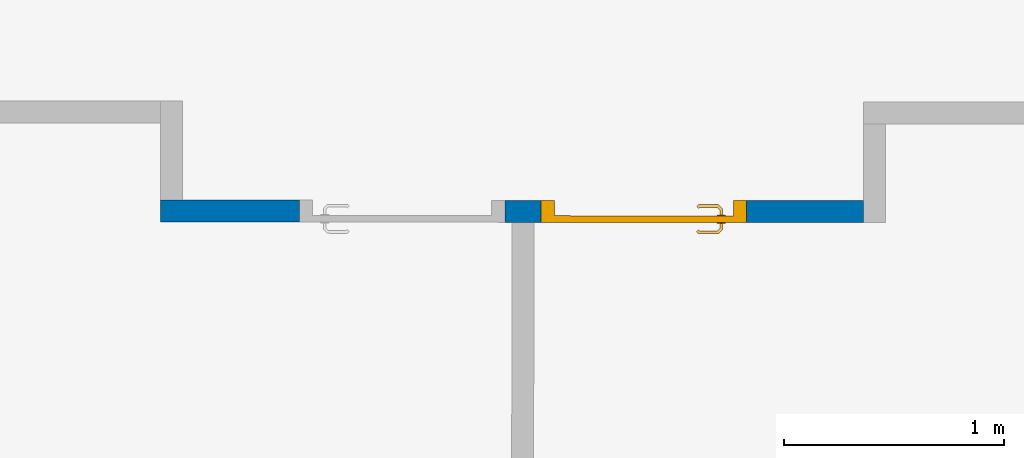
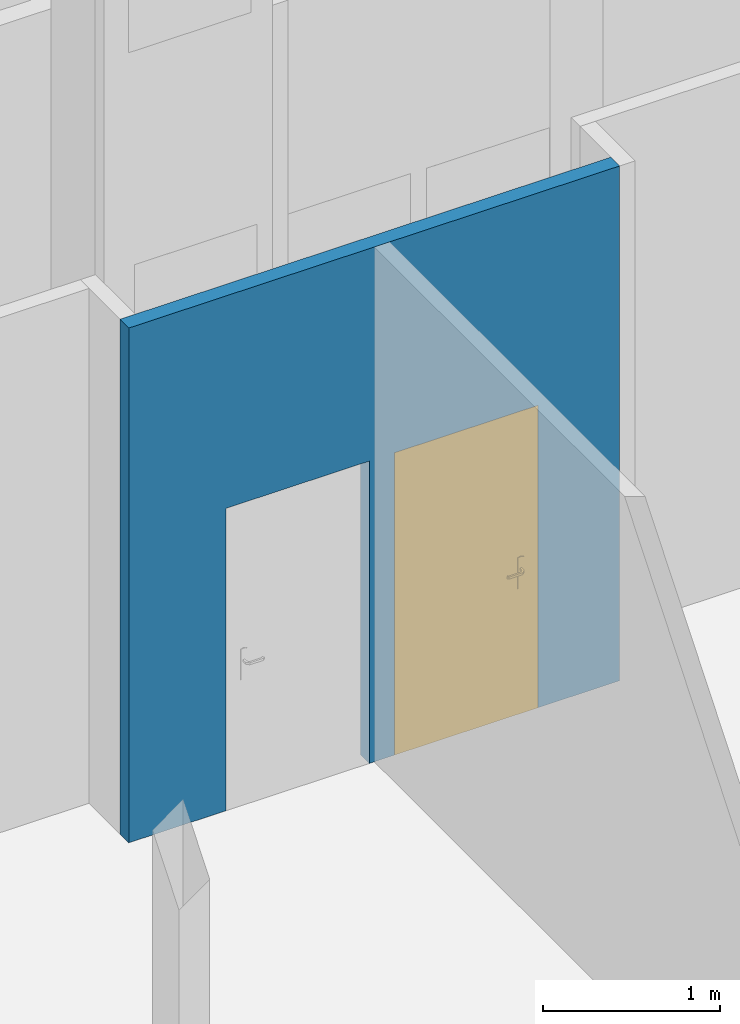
# One storey, part 45 of 101: 1 door, 1 wall, 2 openings.
"""IFC2X3 building model written with IfcOpenShell, lengths in metres."""

from ifc_helpers import new_model, entity, si_unit, converted_unit, derived_unit, direction, frame, frame_2d, origin, place, context, subcontext, project, spatial, rectangle, extrude, faceted_brep, source, transform, mapped, material, material_list, layer, layer_set, layer_usage, type_object, type_shapes, element, fill, save


model = new_model("IFC2X3")

# Units and contexts
model_context = context("Model", 3, precision=1e-05, world=origin(), true_north=direction((6.123233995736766e-17, 1.0)))
body_context = subcontext(model_context, "Body", "Model", "MODEL_VIEW")
ifc_project = project(units=[si_unit("LENGTHUNIT", "METRE"), si_unit("AREAUNIT", "SQUARE_METRE"), converted_unit("PLANEANGLEUNIT", "DEGREE", entity("IfcPlaneAngleMeasure", 0.017453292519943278), si_unit("PLANEANGLEUNIT", "RADIAN"), dimensions=[0, 0, 0, 0, 0, 0, 0]), derived_unit("THERMALTRANSMITTANCEUNIT", [(si_unit("MASSUNIT", "GRAM", prefix="KILO"), 1), (si_unit("THERMODYNAMICTEMPERATUREUNIT", "KELVIN"), -1), (si_unit("TIMEUNIT", "SECOND"), -3)])], contexts=[model_context])

# Site, building, storey
site_placement = place(None, frame((1253.6752467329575, 2072.143113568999, 91.49999999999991), z_axis=(0.0, 0.0, 1.0), x_axis=(0.7237211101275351, 0.6900925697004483, 0.0)))
site = spatial("IfcSite", under=ifc_project, at=site_placement, Name="Surface", CompositionType="ELEMENT")
building_placement = place(site_placement, origin())
building = spatial("IfcBuilding", under=site, at=building_placement, CompositionType="ELEMENT")
storey_placement = place(building_placement, origin())
storey = spatial("IfcBuildingStorey", under=building, at=storey_placement, Name="0- Rdc", CompositionType="ELEMENT", Elevation=-5.764692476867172e-13)

# Wall, openings, door
ifc_material_1 = material(Name="OMD_Béton blanc")
ifc_layer = layer(ifc_material_1, 0.1)
ifc_layer_set = layer_set([ifc_layer], Name="Mur de base:MUR 10")
ifc_layer_usage = layer_usage(ifc_layer_set, "AXIS2", "NEGATIVE", 0.05)
wall_type = type_object("IfcWallType", Name="Mur de base:MUR 10", PredefinedType="STANDARD", material=ifc_layer_set)
wall_placement = place(storey_placement, frame((155.02169583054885, 2.2505814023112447, 0.0), z_axis=(0.0, 0.0, 1.0), x_axis=(0.722870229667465, -0.6909838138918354, 0.0)))
wall = element("IfcWallStandardCase", 1, at=wall_placement, inside=storey, type_object=wall_type, material=ifc_layer_usage, Name="Mur de base:MUR 10", ObjectType="Mur de base:MUR 10", context=body_context, shape_type="SweptSolid", body=[
    extrude(rectangle(XDim=3.2000000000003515, YDim=0.09999999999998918, at=frame_2d((1.600000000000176, 2.588207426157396e-15), x_axis=(-1.0, 0.0))), origin(), (0.0, 0.0, 1.0), 3.5499999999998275),
])
opening_1_placement = place(wall_placement, frame((2.667499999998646, 0.05000000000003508, 0.0)))
opening_1 = element("IfcOpeningElement", 2, at=opening_1_placement, cuts=wall, Name="OMD_Porte 1V tunnel:80x204:1", ObjectType="Opening", context=body_context, shape_type="SweptSolid", body=[
    extrude(rectangle(XDim=2.0850000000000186, YDim=0.9349999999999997, at=frame_2d((1.0425000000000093, 0.46749999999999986), x_axis=(1.0, 0.0))), frame((0.0, 0.0, 0.0), z_axis=(0.0, -1.0, 0.0), x_axis=(0.0, 0.0, 1.0)), (0.0, 0.0, 1.0), 0.09999999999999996),
])
opening_2_placement = place(wall_placement, frame((1.5674999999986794, 0.05000000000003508, 0.0)))
element("IfcOpeningElement", 3, at=opening_2_placement, cuts=wall, Name="OMD_Porte 1V tunnel:80x204:1", ObjectType="Opening", context=body_context, shape_type="SweptSolid", body=[
    extrude(rectangle(XDim=2.0850000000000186, YDim=0.9349999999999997, at=frame_2d((1.0425000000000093, 0.46749999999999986), x_axis=(1.0, 0.0))), frame((0.0, 0.0, 0.0), z_axis=(0.0, -1.0, 0.0), x_axis=(0.0, 0.0, 1.0)), (0.0, 0.0, 1.0), 0.09999999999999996),
])
ifc_material_2 = material(Name="Porte - Poignée")
ifc_material_3 = material(Name="OMD_Peinture mur")
ifc_material_4 = material(Name="OMD_Bois")
ifc_material_list = material_list([ifc_material_2, ifc_material_3, ifc_material_4])
door_style = type_object("IfcDoorStyle", Name="OMD_Porte 1V tunnel:80x204", ConstructionType="NOTDEFINED", OperationType="NOTDEFINED", ParameterTakesPrecedence=False, Sizeable=False, material=ifc_material_list)
shared_shape = source(origin(), body_context, "Body", "Brep", [
    faceted_brep([(0.8220252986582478, 0.03500000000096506, 1.0077804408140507), (0.8179747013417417, 0.03500000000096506, 1.007780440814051), (0.8139999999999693, 0.03500000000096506, 1.00699999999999), (0.8139999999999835, 0.03500000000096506, 0.9930000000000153), (0.8179747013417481, 0.03500000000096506, 0.9922195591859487), (0.8220252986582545, 0.03500000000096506, 0.9922195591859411), (0.8260000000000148, 0.03500000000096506, 0.9929999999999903), (0.826000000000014, 0.03500000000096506, 1.006999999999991), (0.8139999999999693, 0.05748520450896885, 1.00699999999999), (0.8139999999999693, 0.05748520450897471, 0.9930000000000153), (0.8179747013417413, 0.059131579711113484, 1.007780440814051), (0.8220252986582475, 0.060809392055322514, 1.0077804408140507), (0.8058389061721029, 0.07699578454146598, 1.0077804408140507), (0.8041610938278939, 0.07294518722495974, 1.007780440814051), (0.7207931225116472, 0.07294518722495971, 1.0077804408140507), (0.7191153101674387, 0.07699578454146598, 1.0077804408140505), (0.7114510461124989, 0.06933152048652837, 1.0077804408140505), (0.714315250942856, 0.0664673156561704, 1.0077804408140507), (0.8260000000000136, 0.062455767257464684, 1.006999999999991), (0.8260000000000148, 0.062455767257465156, 0.9929999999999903), (0.8220252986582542, 0.06080939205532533, 0.9922195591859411), (0.8179747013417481, 0.05913157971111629, 0.9922195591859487), (0.8041610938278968, 0.07294518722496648, 0.9922195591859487), (0.8058389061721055, 0.07699578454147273, 0.9922195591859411), (0.7191153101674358, 0.07699578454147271, 0.9922195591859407), (0.7207931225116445, 0.07294518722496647, 0.9922195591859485), (0.7143152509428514, 0.06646731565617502, 0.9922195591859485), (0.7114510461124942, 0.06933152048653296, 0.9922195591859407), (0.8025147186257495, 0.06897048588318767, 1.00699999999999), (0.8025147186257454, 0.06897048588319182, 0.9930000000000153), (0.8074852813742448, 0.08097048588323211, 1.006999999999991), (0.8074852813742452, 0.08097048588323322, 0.9929999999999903), (0.7624771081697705, 0.06897048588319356, 1.0069999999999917), (0.7224394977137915, 0.06897048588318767, 1.0069999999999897), (0.7224394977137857, 0.0689704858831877, 0.9930000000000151), (0.7624771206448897, 0.06897048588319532, 0.9930000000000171), (0.7624771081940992, 0.07512492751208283, 1.0078781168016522), (0.7573994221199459, 0.08097048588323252, 1.0069999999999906), (0.7174689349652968, 0.08097048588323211, 1.0069999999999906), (0.7675547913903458, 0.08097048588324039, 0.9929999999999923), (0.7174689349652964, 0.08097048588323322, 0.99299999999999), (0.762477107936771, 0.07512492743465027, 0.9921218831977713), (0.7086405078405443, 0.07214205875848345, 1.0069999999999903), (0.7086405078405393, 0.07214205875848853, 0.9929999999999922), (0.7171257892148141, 0.06365677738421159, 0.9930000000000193), (0.71712578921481, 0.06365677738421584, 1.0069999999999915)], [[[0, 1, 2, 3, 4, 5, 6, 7]], [[8, 9, 3, 2]], [[1, 10, 8, 2]], [[1, 0, 11, 12, 13, 10]], [[14, 15, 16, 17]], [[7, 18, 11, 0]], [[18, 7, 6, 19]], [[6, 5, 20, 19]], [[5, 4, 21, 22, 23, 20]], [[24, 25, 26, 27]], [[4, 3, 9, 21]], [[28, 29, 9, 8]], [[8, 10, 13, 28]], [[18, 30, 12, 11]], [[31, 30, 18, 19]], [[19, 20, 23, 31]], [[21, 9, 29, 22]], [[29, 28, 32, 33, 34, 35]], [[36, 32, 13]], [[37, 38, 15]], [[37, 12, 30]], [[36, 12, 37]], [[14, 32, 36]], [[36, 15, 14]], [[28, 13, 32]], [[32, 14, 33]], [[12, 36, 13]], [[15, 36, 37]], [[30, 31, 39, 40, 38, 37]], [[23, 41, 39]], [[24, 39, 41]], [[39, 31, 23]], [[39, 24, 40]], [[22, 35, 41]], [[41, 23, 22]], [[41, 35, 25]], [[35, 22, 29]], [[34, 25, 35]], [[24, 41, 25]], [[17, 16, 42, 43, 27, 26, 44, 45]], [[45, 44, 34, 33]], [[33, 14, 17, 45]], [[15, 38, 42, 16]], [[43, 42, 38, 40]], [[24, 27, 43, 40]], [[34, 44, 26, 25]]]),
    faceted_brep([(0.817974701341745, -0.004999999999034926, 1.007780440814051), (0.8220252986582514, -0.004999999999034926, 1.0077804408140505), (0.8260000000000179, -0.004999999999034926, 1.0069999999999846), (0.8260000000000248, -0.004999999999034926, 0.9929999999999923), (0.8220252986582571, -0.004999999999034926, 0.992219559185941), (0.817974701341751, -0.004999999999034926, 0.9922195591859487), (0.8139999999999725, -0.004999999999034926, 0.9930000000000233), (0.8139999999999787, -0.004999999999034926, 1.006999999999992), (0.8220252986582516, -0.03100457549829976, 1.0077804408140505), (0.8260000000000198, -0.03265095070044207, 1.0069999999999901), (0.8179747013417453, -0.02932676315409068, 1.007780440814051), (0.8042986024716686, -0.04300286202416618, 1.007780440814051), (0.8059764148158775, -0.04705345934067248, 1.0077804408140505), (0.7191424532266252, -0.04705345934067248, 1.0077804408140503), (0.7208202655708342, -0.04300286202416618, 1.0077804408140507), (0.714342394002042, -0.03652499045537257, 1.0077804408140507), (0.7114781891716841, -0.039389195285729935, 1.0077804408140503), (0.813999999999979, -0.02768038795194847, 1.006999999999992), (0.8139999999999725, -0.02768038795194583, 0.9930000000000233), (0.817974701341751, -0.029326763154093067, 0.9922195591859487), (0.8220252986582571, -0.031004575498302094, 0.992219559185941), (0.8059764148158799, -0.0470534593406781, 0.992219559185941), (0.804298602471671, -0.04300286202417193, 0.9922195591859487), (0.7208202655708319, -0.04300286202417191, 0.9922195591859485), (0.7191424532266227, -0.047053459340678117, 0.9922195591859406), (0.71147818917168, -0.03938919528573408, 0.9922195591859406), (0.7143423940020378, -0.036524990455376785, 0.9922195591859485), (0.8260000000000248, -0.032650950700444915, 0.9929999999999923), (0.807622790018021, -0.051028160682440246, 1.0069999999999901), (0.8026522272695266, -0.03902816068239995, 1.006999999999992), (0.8026522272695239, -0.03902816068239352, 0.9930000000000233), (0.8076227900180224, -0.05102816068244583, 0.9929999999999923), (0.762559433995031, -0.0451828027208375, 1.0078781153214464), (0.7676923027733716, -0.05102816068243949, 1.0069999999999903), (0.7174960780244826, -0.05102816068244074, 1.00699999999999), (0.7625594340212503, -0.03902816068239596, 1.0069999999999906), (0.7224666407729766, -0.039028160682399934, 1.0069999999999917), (0.7625594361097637, -0.03902816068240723, 0.9930000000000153), (0.7224666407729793, -0.03902816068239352, 0.9930000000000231), (0.7625594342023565, -0.04518280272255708, 0.9921218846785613), (0.7574265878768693, -0.051028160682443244, 0.9929999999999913), (0.7174960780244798, -0.05102816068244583, 0.9929999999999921), (0.7171529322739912, -0.033714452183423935, 0.9930000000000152), (0.7086676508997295, -0.04219973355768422, 0.9929999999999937), (0.7086676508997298, -0.04219973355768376, 1.0069999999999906), (0.717152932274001, -0.03371445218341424, 1.0069999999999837)], [[[0, 1, 2, 3, 4, 5, 6, 7]], [[2, 1, 8, 9]], [[1, 0, 10, 11, 12, 8]], [[13, 14, 15, 16]], [[0, 7, 17, 10]], [[18, 17, 7, 6]], [[5, 19, 18, 6]], [[5, 4, 20, 21, 22, 19]], [[23, 24, 25, 26]], [[3, 27, 20, 4]], [[9, 27, 3, 2]], [[9, 8, 12, 28]], [[10, 17, 29, 11]], [[30, 29, 17, 18]], [[18, 19, 22, 30]], [[20, 27, 31, 21]], [[28, 31, 27, 9]], [[12, 32, 33]], [[13, 33, 32]], [[33, 28, 12]], [[33, 13, 34]], [[11, 35, 32]], [[32, 12, 11]], [[32, 35, 14]], [[35, 11, 29]], [[36, 14, 35]], [[13, 32, 14]], [[29, 30, 37, 38, 36, 35]], [[39, 37, 22]], [[40, 41, 24]], [[40, 21, 31]], [[39, 21, 40]], [[23, 37, 39]], [[39, 24, 23]], [[30, 22, 37]], [[37, 23, 38]], [[21, 39, 22]], [[24, 39, 40]], [[31, 28, 33, 34, 41, 40]], [[42, 26, 25, 43, 44, 16, 15, 45]], [[13, 16, 44, 34]], [[36, 45, 15, 14]], [[42, 45, 36, 38]], [[38, 23, 26, 42]], [[24, 41, 43, 25]], [[44, 43, 41, 34]]]),
    faceted_brep([(0.8199999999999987, 0.030000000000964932, 0.8646410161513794), (0.8303527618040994, 0.03000000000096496, 0.866003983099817), (0.8399999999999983, 0.030000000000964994, 0.8700000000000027), (0.8399999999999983, 0.030000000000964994, 1.0800000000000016), (0.8303527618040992, 0.03000000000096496, 1.0839960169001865), (0.8199999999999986, 0.030000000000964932, 1.0853589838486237), (0.809647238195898, 0.030000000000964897, 1.0839960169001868), (0.7999999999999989, 0.030000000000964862, 1.0800000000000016), (0.7999999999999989, 0.030000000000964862, 0.8700000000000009), (0.8096472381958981, 0.030000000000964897, 0.8660039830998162), (0.8199999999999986, 0.03500000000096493, 1.0853589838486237), (0.8303527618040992, 0.03500000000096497, 1.0839960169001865), (0.8399999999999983, 0.035000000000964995, 1.0800000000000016), (0.8399999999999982, 0.035000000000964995, 0.8700000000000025), (0.8303527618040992, 0.03500000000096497, 0.866003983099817), (0.8199999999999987, 0.03500000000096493, 0.8646410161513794), (0.8096472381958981, 0.0350000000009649, 0.8660039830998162), (0.7999999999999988, 0.03500000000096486, 0.8700000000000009), (0.7999999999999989, 0.03500000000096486, 1.0800000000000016), (0.809647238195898, 0.0350000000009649, 1.0839960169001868)], [[[0, 1, 2, 3, 4, 5, 6, 7, 8, 9]], [[10, 11, 12, 13, 14, 15, 16, 17, 18, 19]], [[6, 19, 18, 7]], [[5, 10, 19, 6]], [[4, 11, 10, 5]], [[4, 3, 12, 11]], [[12, 3, 2, 13]], [[1, 14, 13, 2]], [[0, 15, 14, 1]], [[9, 16, 15, 0]], [[9, 8, 17, 16]], [[17, 8, 7, 18]]]),
    faceted_brep([(0.819999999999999, -0.004999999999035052, 0.8646410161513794), (0.8303527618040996, -0.0049999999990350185, 0.8660039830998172), (0.8399999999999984, -0.004999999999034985, 0.8700000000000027), (0.8399999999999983, -0.004999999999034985, 1.0800000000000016), (0.8303527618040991, -0.0049999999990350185, 1.0839960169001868), (0.8199999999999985, -0.004999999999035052, 1.0853589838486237), (0.8096472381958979, -0.004999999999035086, 1.0839960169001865), (0.7999999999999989, -0.004999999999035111, 1.0800000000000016), (0.7999999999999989, -0.004999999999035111, 0.8700000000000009), (0.8096472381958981, -0.004999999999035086, 0.8660039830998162), (0.8399999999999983, 0.0, 1.0800000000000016), (0.8399999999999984, 0.0, 0.8700000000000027), (0.8303527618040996, 0.0, 0.8660039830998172), (0.819999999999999, 0.0, 0.8646410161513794), (0.8096472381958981, 0.0, 0.8660039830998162), (0.7999999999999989, 0.0, 0.8700000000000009), (0.7999999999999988, 0.0, 1.0800000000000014), (0.8096472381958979, 0.0, 1.0839960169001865), (0.8199999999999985, 0.0, 1.0853589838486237), (0.8303527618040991, 0.0, 1.0839960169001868)], [[[0, 1, 2, 3, 4, 5, 6, 7, 8, 9]], [[10, 11, 12, 13, 14, 15, 16, 17, 18, 19]], [[1, 12, 11, 2]], [[0, 13, 12, 1]], [[9, 14, 13, 0]], [[9, 8, 15, 14]], [[15, 8, 7, 16]], [[6, 17, 16, 7]], [[5, 18, 17, 6]], [[4, 19, 18, 5]], [[4, 3, 10, 19]], [[10, 3, 2, 11]]]),
    faceted_brep([(0.89, 0.030000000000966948, 0.0), (0.89, 0.0, 0.0), (0.04500000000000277, 0.0, 0.0), (0.04500000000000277, 0.030000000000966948, 0.0), (0.89, 0.030000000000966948, 2.04), (0.89, 0.0, 2.04), (0.04500000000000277, 0.0, 2.04), (0.04500000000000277, 0.030000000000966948, 2.04)], [[[0, 1, 2, 3]], [[4, 5, 1, 0]], [[5, 6, 2, 1]], [[6, 7, 3, 2]], [[7, 4, 0, 3]], [[4, 7, 6, 5]]]),
    faceted_brep([(0.9350000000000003, 0.0, 0.0), (0.89, 0.0, 0.0), (0.8900000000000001, 0.03000000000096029, 0.0), (0.8750000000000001, 0.030000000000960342, 0.0), (0.8750000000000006, 0.10000000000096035, 0.0), (0.9350000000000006, 0.10000000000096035, 0.0), (0.9350000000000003, 0.0, 2.085), (0.0, 0.0, 2.085), (0.0, 0.0, 0.0), (0.04500000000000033, 0.0, 0.0), (0.04500000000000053, 0.0, 2.04), (0.8899999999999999, 0.0, 2.0399999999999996), (0.89, 0.030000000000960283, 2.0399999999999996), (0.0450000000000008, 0.03000000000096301, 2.0399999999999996), (0.0450000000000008, 0.030000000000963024, 0.0), (0.060000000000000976, 0.030000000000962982, 0.0), (0.060000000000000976, 0.03000000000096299, 2.0249999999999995), (0.8750000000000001, 0.03000000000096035, 2.025), (0.8750000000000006, 0.10000000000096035, 2.0250000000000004), (0.060000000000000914, 0.10000000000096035, 2.025), (0.060000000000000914, 0.10000000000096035, 0.0), (0.0, 0.10000000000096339, 0.0), (0.0, 0.10000000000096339, 2.085), (0.9350000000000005, 0.10000000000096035, 2.085)], [[[0, 1, 2, 3, 4, 5]], [[1, 0, 6, 7, 8, 9, 10, 11]], [[2, 1, 11, 12]], [[3, 2, 12, 13, 14, 15, 16, 17]], [[4, 3, 17, 18]], [[5, 4, 18, 19, 20, 21, 22, 23]], [[0, 5, 23, 6]], [[7, 22, 21, 8]], [[8, 21, 20, 15, 14, 9]], [[13, 10, 9, 14]], [[19, 16, 15, 20]], [[12, 11, 10, 13]], [[18, 17, 16, 19]], [[6, 23, 22, 7]]]),
])
type_shapes(door_style, [shared_shape])
door_placement = place(opening_1_placement, frame((-0.9349999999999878, -0.10000000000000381, 0.0)))
door = element("IfcDoor", 4, at=door_placement, inside=storey, type_object=door_style, material=ifc_material_list, Name="OMD_Porte 1V tunnel:80x204", ObjectType="OMD_Porte 1V tunnel:80x204", OverallHeight=2.0850000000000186, OverallWidth=0.9349999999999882, context=body_context, shape_type="MappedRepresentation", body=[
    mapped(shared_shape, transform((0.0, 0.0, 0.0), scale=1.0)),
])
fill(opening_1, door)

save(model, "model.ifc")
